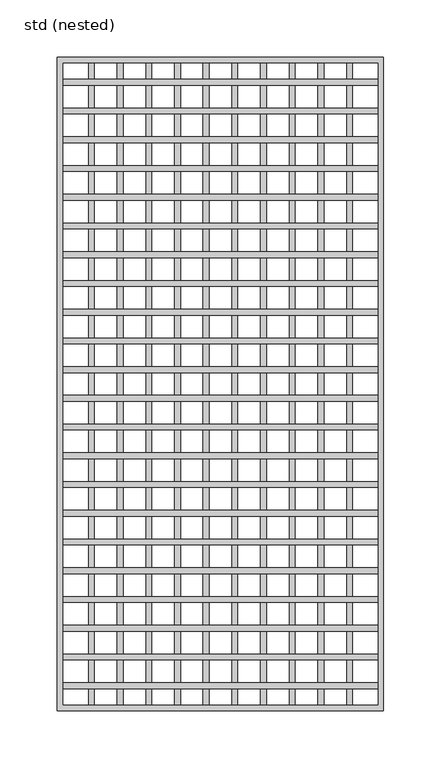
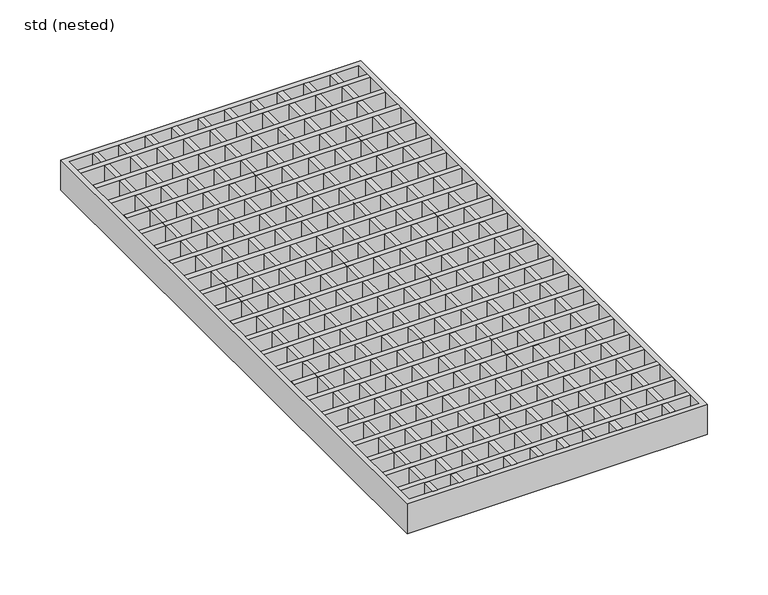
"""IFC4 building model written with IfcOpenShell, lengths in millimetres: sanitary terminal geometry, ZZZ_do not use_PF_ST_UN_grating for high capacity gully_ACO : std (nested)."""

from ifc_helpers import new_model, si_unit, frame, origin, place, context, project, spatial, polyline, outline, extrude, source, transform, mapped, element, save


def std_nested_5fa55fd6(model_context):
    return source(origin(), model_context, "Body", "SweptSolid", [
        extrude(outline(polyline([(137.0, -265.0), (-137.0, -265.0), (-137.0, -260.0), (137.0, -260.0), (137.0, -265.0)])), frame((0.0, 0.0, -20.0), z_axis=(0.0, 0.0, 1.0), x_axis=(1.0, 0.0, 0.0)), (0.0, 0.0, 1.0), 20.0),
        extrude(outline(polyline([(137.0, -240.0), (-137.0, -240.0), (-137.0, -235.0), (137.0, -235.0), (137.0, -240.0)])), frame((0.0, 0.0, -20.0), z_axis=(0.0, 0.0, 1.0), x_axis=(1.0, 0.0, 0.0)), (0.0, 0.0, 1.0), 20.0),
        extrude(outline(polyline([(137.0, -215.0), (-137.0, -215.0), (-137.0, -210.0), (137.0, -210.0), (137.0, -215.0)])), frame((0.0, 0.0, -20.0), z_axis=(0.0, 0.0, 1.0), x_axis=(1.0, 0.0, 0.0)), (0.0, 0.0, 1.0), 20.0),
        extrude(outline(polyline([(137.0, 265.0), (137.0, 260.0), (-137.0, 260.0), (-137.0, 265.0), (137.0, 265.0)])), frame((0.0, 0.0, -20.0), z_axis=(0.0, 0.0, 1.0), x_axis=(1.0, 0.0, 0.0)), (0.0, 0.0, 1.0), 20.0),
        extrude(outline(polyline([(137.0, 240.0), (137.0, 235.0), (-137.0, 235.0), (-137.0, 240.0), (137.0, 240.0)])), frame((0.0, 0.0, -20.0), z_axis=(0.0, 0.0, 1.0), x_axis=(1.0, 0.0, 0.0)), (0.0, 0.0, 1.0), 20.0),
        extrude(outline(polyline([(137.0, 215.0), (137.0, 210.0), (-137.0, 210.0), (-137.0, 215.0), (137.0, 215.0)])), frame((0.0, 0.0, -20.0), z_axis=(0.0, 0.0, 1.0), x_axis=(1.0, 0.0, 0.0)), (0.0, 0.0, 1.0), 20.0),
        extrude(outline(polyline([(137.0, -190.0), (-137.0, -190.0), (-137.0, -185.0), (137.0, -185.0), (137.0, -190.0)])), frame((0.0, 0.0, -20.0), z_axis=(0.0, 0.0, 1.0), x_axis=(1.0, 0.0, 0.0)), (0.0, 0.0, 1.0), 20.0),
        extrude(outline(polyline([(137.0, -165.0), (-137.0, -165.0), (-137.0, -160.0), (137.0, -160.0), (137.0, -165.0)])), frame((0.0, 0.0, -20.0), z_axis=(0.0, 0.0, 1.0), x_axis=(1.0, 0.0, 0.0)), (0.0, 0.0, 1.0), 20.0),
        extrude(outline(polyline([(137.0, -140.0), (-137.0, -140.0), (-137.0, -135.0), (137.0, -135.0), (137.0, -140.0)])), frame((0.0, 0.0, -20.0), z_axis=(0.0, 0.0, 1.0), x_axis=(1.0, 0.0, 0.0)), (0.0, 0.0, 1.0), 20.0),
        extrude(outline(polyline([(137.0, -115.0), (-137.0, -115.0), (-137.0, -110.0), (137.0, -110.0), (137.0, -115.0)])), frame((0.0, 0.0, -20.0), z_axis=(0.0, 0.0, 1.0), x_axis=(1.0, 0.0, 0.0)), (0.0, 0.0, 1.0), 20.0),
        extrude(outline(polyline([(137.0, -90.0), (-137.0, -90.0), (-137.0, -85.0), (137.0, -85.0), (137.0, -90.0)])), frame((0.0, 0.0, -20.0), z_axis=(0.0, 0.0, 1.0), x_axis=(1.0, 0.0, 0.0)), (0.0, 0.0, 1.0), 20.0),
        extrude(outline(polyline([(137.0, -65.0), (-137.0, -65.0), (-137.0, -60.0), (137.0, -60.0), (137.0, -65.0)])), frame((0.0, 0.0, -20.0), z_axis=(0.0, 0.0, 1.0), x_axis=(1.0, 0.0, 0.0)), (0.0, 0.0, 1.0), 20.0),
        extrude(outline(polyline([(137.0, -40.0), (-137.0, -40.0), (-137.0, -35.0), (137.0, -35.0), (137.0, -40.0)])), frame((0.0, 0.0, -20.0), z_axis=(0.0, 0.0, 1.0), x_axis=(1.0, 0.0, 0.0)), (0.0, 0.0, 1.0), 20.0),
        extrude(outline(polyline([(137.0, 190.0), (137.0, 185.0), (-137.0, 185.0), (-137.0, 190.0), (137.0, 190.0)])), frame((0.0, 0.0, -20.0), z_axis=(0.0, 0.0, 1.0), x_axis=(1.0, 0.0, 0.0)), (0.0, 0.0, 1.0), 20.0),
        extrude(outline(polyline([(137.0, 165.0), (137.0, 160.0), (-137.0, 160.0), (-137.0, 165.0), (137.0, 165.0)])), frame((0.0, 0.0, -20.0), z_axis=(0.0, 0.0, 1.0), x_axis=(1.0, 0.0, 0.0)), (0.0, 0.0, 1.0), 20.0),
        extrude(outline(polyline([(137.0, 140.0), (137.0, 135.0), (-137.0, 135.0), (-137.0, 140.0), (137.0, 140.0)])), frame((0.0, 0.0, -20.0), z_axis=(0.0, 0.0, 1.0), x_axis=(1.0, 0.0, 0.0)), (0.0, 0.0, 1.0), 20.0),
        extrude(outline(polyline([(137.0, 115.0), (137.0, 110.0), (-137.0, 110.0), (-137.0, 115.0), (137.0, 115.0)])), frame((0.0, 0.0, -20.0), z_axis=(0.0, 0.0, 1.0), x_axis=(1.0, 0.0, 0.0)), (0.0, 0.0, 1.0), 20.0),
        extrude(outline(polyline([(137.0, 90.0), (137.0, 85.0), (-137.0, 85.0), (-137.0, 90.0), (137.0, 90.0)])), frame((0.0, 0.0, -20.0), z_axis=(0.0, 0.0, 1.0), x_axis=(1.0, 0.0, 0.0)), (0.0, 0.0, 1.0), 20.0),
        extrude(outline(polyline([(137.0, 65.0), (137.0, 60.0), (-137.0, 60.0), (-137.0, 65.0), (137.0, 65.0)])), frame((0.0, 0.0, -20.0), z_axis=(0.0, 0.0, 1.0), x_axis=(1.0, 0.0, 0.0)), (0.0, 0.0, 1.0), 20.0),
        extrude(outline(polyline([(137.0, 40.0), (137.0, 35.0), (-137.0, 35.0), (-137.0, 40.0), (137.0, 40.0)])), frame((0.0, 0.0, -20.0), z_axis=(0.0, 0.0, 1.0), x_axis=(1.0, 0.0, 0.0)), (0.0, 0.0, 1.0), 20.0),
        extrude(outline(polyline([(137.0, 15.0), (137.0, 10.0), (-137.0, 10.0), (-137.0, 15.0), (137.0, 15.0)])), frame((0.0, 0.0, -20.0), z_axis=(0.0, 0.0, 1.0), x_axis=(1.0, 0.0, 0.0)), (0.0, 0.0, 1.0), 20.0),
        extrude(outline(polyline([(137.0, -15.0), (-137.0, -15.0), (-137.0, -10.0), (137.0, -10.0), (137.0, -15.0)])), frame((0.0, 0.0, -20.0), z_axis=(0.0, 0.0, 1.0), x_axis=(1.0, 0.0, 0.0)), (0.0, 0.0, 1.0), 20.0),
        extrude(outline(polyline([(-115.0, 279.0), (-110.0, 279.0), (-110.0, -279.0), (-115.0, -279.0), (-115.0, 279.0)])), frame((0.0, 0.0, -20.0), z_axis=(0.0, 0.0, 1.0), x_axis=(1.0, 0.0, 0.0)), (0.0, 0.0, 1.0), 20.0),
        extrude(outline(polyline([(-90.0, 279.0), (-85.0, 279.0), (-85.0, -279.0), (-90.0, -279.0), (-90.0, 279.0)])), frame((0.0, 0.0, -20.0), z_axis=(0.0, 0.0, 1.0), x_axis=(1.0, 0.0, 0.0)), (0.0, 0.0, 1.0), 20.0),
        extrude(outline(polyline([(-65.0, 279.0), (-60.0, 279.0), (-60.0, -279.0), (-65.0, -279.0), (-65.0, 279.0)])), frame((0.0, 0.0, -20.0), z_axis=(0.0, 0.0, 1.0), x_axis=(1.0, 0.0, 0.0)), (0.0, 0.0, 1.0), 20.0),
        extrude(outline(polyline([(-40.0, 279.0), (-35.0, 279.0), (-35.0, -279.0), (-40.0, -279.0), (-40.0, 279.0)])), frame((0.0, 0.0, -20.0), z_axis=(0.0, 0.0, 1.0), x_axis=(1.0, 0.0, 0.0)), (0.0, 0.0, 1.0), 20.0),
        extrude(outline(polyline([(115.0, 279.0), (115.0, -279.0), (110.0, -279.0), (110.0, 279.0), (115.0, 279.0)])), frame((0.0, 0.0, -20.0), z_axis=(0.0, 0.0, 1.0), x_axis=(1.0, 0.0, 0.0)), (0.0, 0.0, 1.0), 20.0),
        extrude(outline(polyline([(90.0, 279.0), (90.0, -279.0), (85.0, -279.0), (85.0, 279.0), (90.0, 279.0)])), frame((0.0, 0.0, -20.0), z_axis=(0.0, 0.0, 1.0), x_axis=(1.0, 0.0, 0.0)), (0.0, 0.0, 1.0), 20.0),
        extrude(outline(polyline([(65.0, 279.0), (65.0, -279.0), (60.0, -279.0), (60.0, 279.0), (65.0, 279.0)])), frame((0.0, 0.0, -20.0), z_axis=(0.0, 0.0, 1.0), x_axis=(1.0, 0.0, 0.0)), (0.0, 0.0, 1.0), 20.0),
        extrude(outline(polyline([(40.0, 279.0), (40.0, -279.0), (35.0, -279.0), (35.0, 279.0), (40.0, 279.0)])), frame((0.0, 0.0, -20.0), z_axis=(0.0, 0.0, 1.0), x_axis=(1.0, 0.0, 0.0)), (0.0, 0.0, 1.0), 20.0),
        extrude(outline(polyline([(-15.0, 279.0), (-10.0, 279.0), (-10.0, -279.0), (-15.0, -279.0), (-15.0, 279.0)])), frame((0.0, 0.0, -20.0), z_axis=(0.0, 0.0, 1.0), x_axis=(1.0, 0.0, 0.0)), (0.0, 0.0, 1.0), 20.0),
        extrude(outline(polyline([(15.0, 279.0), (15.0, -279.0), (10.0, -279.0), (10.0, 279.0), (15.0, 279.0)])), frame((0.0, 0.0, -20.0), z_axis=(0.0, 0.0, 1.0), x_axis=(1.0, 0.0, 0.0)), (0.0, 0.0, 1.0), 20.0),
        extrude(outline(polyline([(142.0, 284.0), (142.0, -284.0), (-142.0, -284.0), (-142.0, 284.0), (142.0, 284.0)]), holes=[polyline([(137.0, 279.0), (-137.0, 279.0), (-137.0, -279.0), (137.0, -279.0), (137.0, 279.0)])]), frame((0.0, 0.0, -30.0), z_axis=(0.0, 0.0, 1.0), x_axis=(1.0, 0.0, 0.0)), (0.0, 0.0, 1.0), 30.0),
    ])


if __name__ == "__main__":
    model = new_model("IFC4")
    model_context = context("Model", 3, world=origin())
    ifc_project = project(units=[si_unit("LENGTHUNIT", "METRE", prefix="MILLI")], contexts=[model_context])
    site = spatial("IfcSite", under=ifc_project)
    building = spatial("IfcBuilding", under=site)
    placement = place(None, origin())
    std_nested_shape = std_nested_5fa55fd6(model_context)
    element("IfcSanitaryTerminal", 1, ObjectType="ZZZ_do not use_PF_ST_UN_grating for high capacity gully_ACO : std (nested)", at=placement, inside=building, context=model_context, shape_type="MappedRepresentation", body=[
        mapped(std_nested_shape, transform((0.0, 0.0, 0.0), x_axis=(1.0, 0.0, 0.0), y_axis=(0.0, 1.0, 0.0), z_axis=(0.0, 0.0, 1.0))),
    ])
    save(model, "model.ifc")
